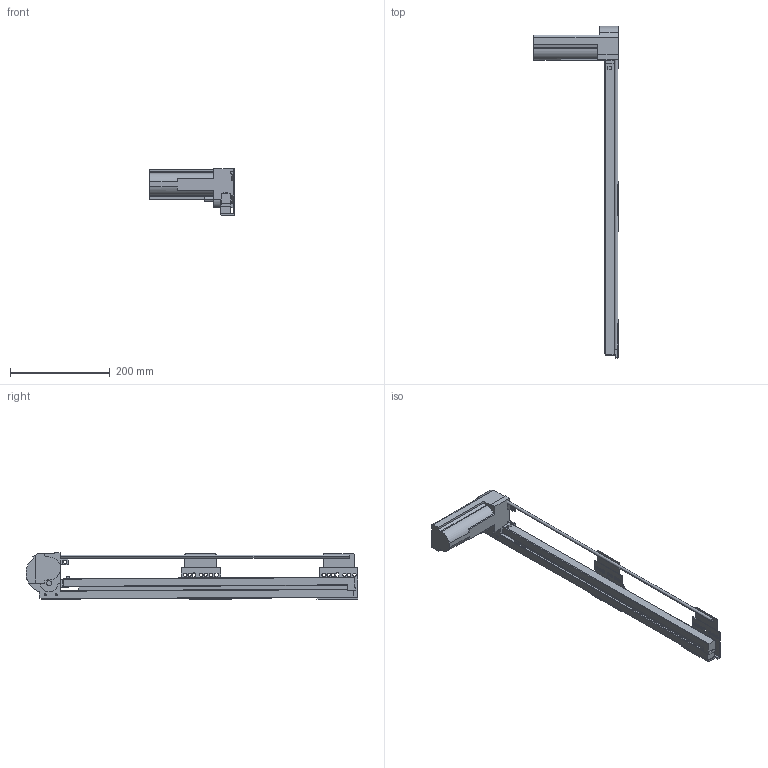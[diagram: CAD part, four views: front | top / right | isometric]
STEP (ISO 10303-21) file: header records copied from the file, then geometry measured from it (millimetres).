
FILE_DESCRIPTION (( 'STEP AP214' ), '1' );
FILE_NAME ('_IMOS_NOVA-Pro_Sensotronic_KS_P907_RE_NL-600_EB29mm.step', '2010-07-23T08:20:02', ( 'grass' ), ( '' ), 'SwSTEP 2.0', 'SolidWorks 2009', '' );
FILE_SCHEMA (( 'AUTOMOTIVE_DESIGN' ));
Length unit declared in the file: millimetre
Products named in the file (1): _IMOS_NOVA-Pro_Sensotronic_KS_P907_RE_NL-600_EB29mm
Bounding box: 169.95 x 666.61 x 94.26 mm (x, y, z)
Volume: 943588.2 mm3; surface area: 181617.6 mm2
Topology: 3 solids, 3 shells, 194 faces, 554 edges, 368 vertices
Faces by surface type: plane 119, cylinder 75
Entity records: 6477 total; most frequent: CARTESIAN_POINT 1129, ORIENTED_EDGE 1108, DIRECTION 1095, EDGE_CURVE 554, LINE 395, VECTOR 395, VERTEX_POINT 368, AXIS2_PLACEMENT_3D 350
